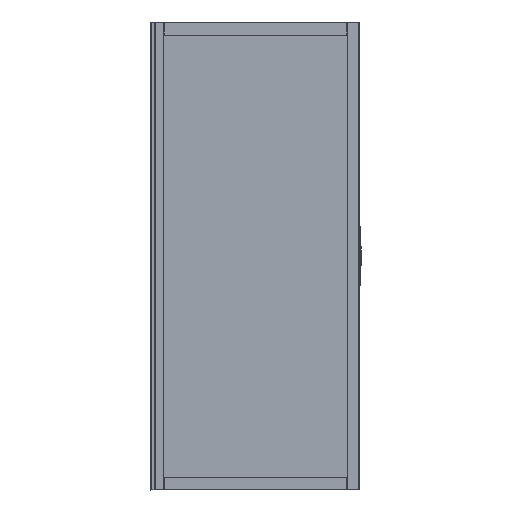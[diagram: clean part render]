
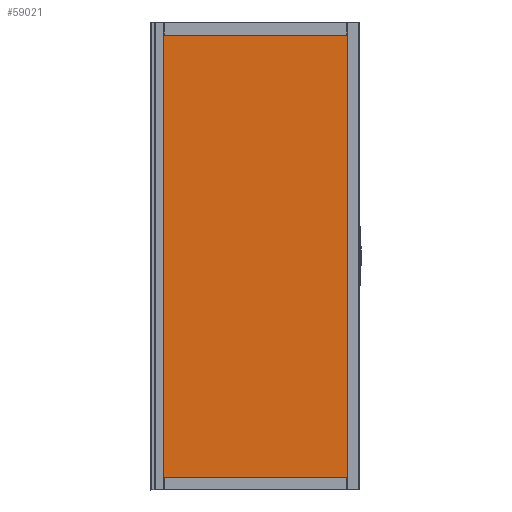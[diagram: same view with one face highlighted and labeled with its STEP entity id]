
A CAD part, front view. The second image highlights one B-rep face of the part: STEP entity #59021.
In plain terms, the highlighted planar face has unit normal (0, -1, 0).
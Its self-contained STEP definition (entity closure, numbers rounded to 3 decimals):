
#3074=LINE($,#108454,#8226);
#3078=LINE($,#108464,#8230);
#3094=LINE($,#108520,#8246);
#3206=LINE($,#108874,#8358);
#3211=LINE($,#108884,#8363);
#3213=LINE($,#108890,#8365);
#3214=LINE($,#108892,#8366);
#3215=LINE($,#108894,#8367);
#3216=LINE($,#108895,#8368);
#3217=LINE($,#108897,#8369);
#3218=LINE($,#108899,#8370);
#3219=LINE($,#108900,#8371);
#3220=LINE($,#108902,#8372);
#3221=LINE($,#108904,#8373);
#3222=LINE($,#108906,#8374);
#3223=LINE($,#108907,#8375);
#3224=LINE($,#108909,#8376);
#3225=LINE($,#108911,#8377);
#3226=LINE($,#108913,#8378);
#3227=LINE($,#108914,#8379);
#3228=LINE($,#108915,#8380);
#8226=VECTOR($,#72576,7.);
#8230=VECTOR($,#72582,0.446);
#8246=VECTOR($,#72634,7.);
#8358=VECTOR($,#72962,784.);
#8363=VECTOR($,#72969,7.);
#8365=VECTOR($,#72975,780.);
#8366=VECTOR($,#72976,0.446);
#8367=VECTOR($,#72977,780.);
#8368=VECTOR($,#72978,0.446);
#8369=VECTOR($,#72979,780.);
#8370=VECTOR($,#72980,780.);
#8371=VECTOR($,#72981,0.446);
#8372=VECTOR($,#72982,7.85);
#8373=VECTOR($,#72983,1908.);
#8374=VECTOR($,#72984,7.85);
#8375=VECTOR($,#72985,7.);
#8376=VECTOR($,#72986,8.15);
#8377=VECTOR($,#72987,1.);
#8378=VECTOR($,#72988,1907.);
#8379=VECTOR($,#72989,8.15);
#8380=VECTOR($,#72990,784.);
#12050=PLANE($,#63222);
#14261=FACE_BOUND($,#19019,.T.);
#14262=FACE_BOUND($,#19020,.T.);
#14263=FACE_BOUND($,#19021,.T.);
#19019=EDGE_LOOP($,(#44004,#44005,#44006,#44007));
#19020=EDGE_LOOP($,(#44008,#44009,#44010,#44011));
#19021=EDGE_LOOP($,(#44012,#44013,#44014,#44015,#44016,#44017,#44018,#44019,
#44020,#44021,#44022,#44023,#44024));
#26077=VERTEX_POINT($,#108451);
#26078=VERTEX_POINT($,#108453);
#26082=VERTEX_POINT($,#108461);
#26083=VERTEX_POINT($,#108463);
#26104=VERTEX_POINT($,#108518);
#26105=VERTEX_POINT($,#108519);
#26220=VERTEX_POINT($,#108871);
#26221=VERTEX_POINT($,#108873);
#26225=VERTEX_POINT($,#108882);
#26226=VERTEX_POINT($,#108888);
#26227=VERTEX_POINT($,#108889);
#26228=VERTEX_POINT($,#108891);
#26229=VERTEX_POINT($,#108893);
#26230=VERTEX_POINT($,#108896);
#26231=VERTEX_POINT($,#108898);
#26232=VERTEX_POINT($,#108901);
#26233=VERTEX_POINT($,#108903);
#26234=VERTEX_POINT($,#108905);
#26235=VERTEX_POINT($,#108908);
#26236=VERTEX_POINT($,#108910);
#26237=VERTEX_POINT($,#108912);
#32642=EDGE_CURVE($,#26077,#26078,#3074,.T.);
#32647=EDGE_CURVE($,#26083,#26082,#3078,.T.);
#32675=EDGE_CURVE($,#26104,#26105,#3094,.T.);
#32844=EDGE_CURVE($,#26220,#26221,#3206,.T.);
#32849=EDGE_CURVE($,#26225,#26220,#3211,.T.);
#32852=EDGE_CURVE($,#26226,#26227,#3213,.T.);
#32853=EDGE_CURVE($,#26227,#26228,#3214,.T.);
#32854=EDGE_CURVE($,#26228,#26229,#3215,.T.);
#32855=EDGE_CURVE($,#26229,#26226,#3216,.T.);
#32856=EDGE_CURVE($,#26230,#26083,#3217,.T.);
#32857=EDGE_CURVE($,#26082,#26231,#3218,.T.);
#32858=EDGE_CURVE($,#26231,#26230,#3219,.T.);
#32859=EDGE_CURVE($,#26077,#26232,#3220,.T.);
#32860=EDGE_CURVE($,#26232,#26233,#3221,.T.);
#32861=EDGE_CURVE($,#26233,#26234,#3222,.T.);
#32862=EDGE_CURVE($,#26221,#26234,#3223,.T.);
#32863=EDGE_CURVE($,#26225,#26235,#3224,.T.);
#32864=EDGE_CURVE($,#26235,#26236,#3225,.T.);
#32865=EDGE_CURVE($,#26236,#26237,#3226,.T.);
#32866=EDGE_CURVE($,#26237,#26105,#3227,.T.);
#32867=EDGE_CURVE($,#26078,#26104,#3228,.T.);
#44004=ORIENTED_EDGE($,*,*,#32852,.T.);
#44005=ORIENTED_EDGE($,*,*,#32853,.T.);
#44006=ORIENTED_EDGE($,*,*,#32854,.T.);
#44007=ORIENTED_EDGE($,*,*,#32855,.T.);
#44008=ORIENTED_EDGE($,*,*,#32856,.T.);
#44009=ORIENTED_EDGE($,*,*,#32647,.T.);
#44010=ORIENTED_EDGE($,*,*,#32857,.T.);
#44011=ORIENTED_EDGE($,*,*,#32858,.T.);
#44012=ORIENTED_EDGE($,*,*,#32642,.F.);
#44013=ORIENTED_EDGE($,*,*,#32859,.T.);
#44014=ORIENTED_EDGE($,*,*,#32860,.T.);
#44015=ORIENTED_EDGE($,*,*,#32861,.T.);
#44016=ORIENTED_EDGE($,*,*,#32862,.F.);
#44017=ORIENTED_EDGE($,*,*,#32844,.F.);
#44018=ORIENTED_EDGE($,*,*,#32849,.F.);
#44019=ORIENTED_EDGE($,*,*,#32863,.T.);
#44020=ORIENTED_EDGE($,*,*,#32864,.T.);
#44021=ORIENTED_EDGE($,*,*,#32865,.T.);
#44022=ORIENTED_EDGE($,*,*,#32866,.T.);
#44023=ORIENTED_EDGE($,*,*,#32675,.F.);
#44024=ORIENTED_EDGE($,*,*,#32867,.F.);
#59021=ADVANCED_FACE($,(#14261,#14262,#14263),#12050,.T.);
#63222=AXIS2_PLACEMENT_3D($,#108887,#72973,#72974);
#72576=DIRECTION($,(0.,0.,-1.));
#72582=DIRECTION($,(0.,0.,1.));
#72634=DIRECTION($,(0.,0.,1.));
#72962=DIRECTION($,(-1.,0.,0.));
#72969=DIRECTION($,(0.,0.,1.));
#72973=DIRECTION('center_axis',(0.,-1.,0.));
#72974=DIRECTION('ref_axis',(1.,0.,0.));
#72975=DIRECTION($,(1.,0.,0.));
#72976=DIRECTION($,(0.,0.,-1.));
#72977=DIRECTION($,(-1.,0.,0.));
#72978=DIRECTION($,(0.,0.,1.));
#72979=DIRECTION($,(-1.,0.,0.));
#72980=DIRECTION($,(1.,0.,0.));
#72981=DIRECTION($,(0.,0.,-1.));
#72982=DIRECTION($,(-1.,0.,0.));
#72983=DIRECTION($,(0.,0.,-1.));
#72984=DIRECTION($,(1.,0.,0.));
#72985=DIRECTION($,(0.,0.,-1.));
#72986=DIRECTION($,(1.,0.,0.));
#72987=DIRECTION($,(0.,0.,1.));
#72988=DIRECTION($,(0.,0.,1.));
#72989=DIRECTION($,(-1.,0.,0.));
#72990=DIRECTION($,(1.,0.,0.));
#108451=CARTESIAN_POINT('',(-284.225,-933.159,2908.14));
#108453=CARTESIAN_POINT('',(-284.225,-933.159,2901.14));
#108454=CARTESIAN_POINT($,(-284.225,-933.159,2678.815));
#108461=CARTESIAN_POINT('',(-284.225,-933.159,2900.013));
#108463=CARTESIAN_POINT('',(-284.225,-933.159,2899.567));
#108464=CARTESIAN_POINT($,(-284.225,-933.159,2668.256));
#108518=CARTESIAN_POINT('',(499.775,-933.159,2901.14));
#108519=CARTESIAN_POINT('',(499.775,-933.159,2908.14));
#108520=CARTESIAN_POINT($,(499.775,-933.159,2678.815));
#108871=CARTESIAN_POINT('',(499.775,-933.159,1007.14));
#108873=CARTESIAN_POINT('',(-284.225,-933.159,1007.14));
#108874=CARTESIAN_POINT($,(203.85,-933.159,1007.14));
#108882=CARTESIAN_POINT('',(499.775,-933.159,1000.14));
#108884=CARTESIAN_POINT($,(499.775,-933.159,1706.465));
#108887=CARTESIAN_POINT('Origin',(-92.075,-933.159,2431.14));
#108888=CARTESIAN_POINT('',(-284.225,-933.159,1008.713));
#108889=CARTESIAN_POINT('',(495.775,-933.159,1008.713));
#108890=CARTESIAN_POINT($,(-284.225,-933.159,1008.713));
#108891=CARTESIAN_POINT('',(495.775,-933.159,1008.266));
#108892=CARTESIAN_POINT($,(495.775,-933.159,1717.023));
#108893=CARTESIAN_POINT('',(-284.225,-933.159,1008.266));
#108894=CARTESIAN_POINT($,(-284.225,-933.159,1008.266));
#108895=CARTESIAN_POINT($,(-284.225,-933.159,1717.023));
#108896=CARTESIAN_POINT('',(495.775,-933.159,2899.567));
#108897=CARTESIAN_POINT($,(495.775,-933.159,2899.567));
#108898=CARTESIAN_POINT('',(495.775,-933.159,2900.013));
#108899=CARTESIAN_POINT($,(495.775,-933.159,2900.013));
#108900=CARTESIAN_POINT($,(495.775,-933.159,2668.256));
#108901=CARTESIAN_POINT('',(-292.075,-933.159,2908.14));
#108902=CARTESIAN_POINT($,(507.925,-933.159,2908.14));
#108903=CARTESIAN_POINT('',(-292.075,-933.159,1000.14));
#108904=CARTESIAN_POINT($,(-292.075,-933.159,2908.14));
#108905=CARTESIAN_POINT('',(-284.225,-933.159,1000.14));
#108906=CARTESIAN_POINT($,(-292.075,-933.159,1000.14));
#108907=CARTESIAN_POINT($,(-284.225,-933.159,1706.465));
#108908=CARTESIAN_POINT('',(507.925,-933.159,1000.14));
#108909=CARTESIAN_POINT($,(-292.075,-933.159,1000.14));
#108910=CARTESIAN_POINT('',(507.925,-933.159,1001.14));
#108911=CARTESIAN_POINT($,(507.925,-933.159,1000.14));
#108912=CARTESIAN_POINT('',(507.925,-933.159,2908.14));
#108913=CARTESIAN_POINT($,(507.925,-933.159,1000.14));
#108914=CARTESIAN_POINT($,(507.925,-933.159,2908.14));
#108915=CARTESIAN_POINT($,(-188.15,-933.159,2901.14));
